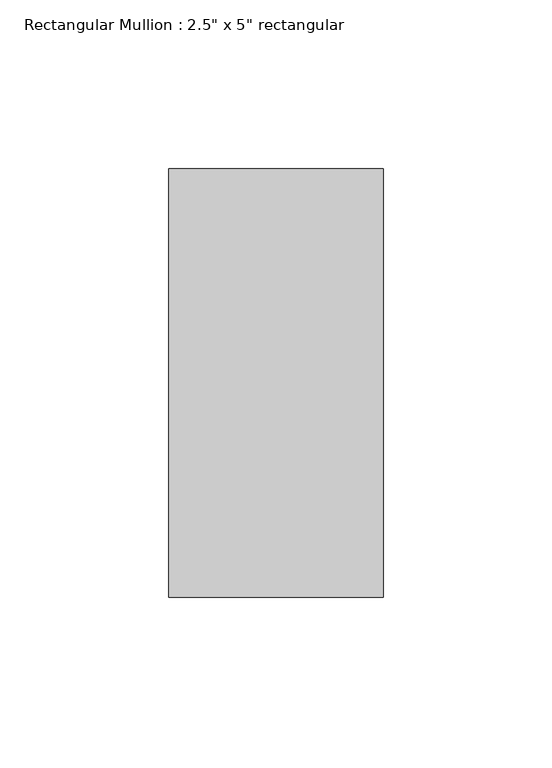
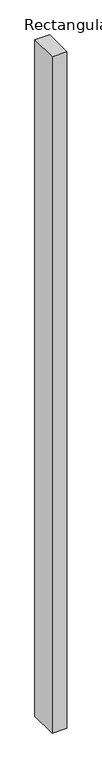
"""IFC4 building model written with IfcOpenShell, lengths in millimetres: member geometry."""

from ifc_helpers import new_model, si_unit, frame, origin, place, context, project, spatial, polyline, outline, extrude, source, transform, mapped, element, save


def member_301edf08(model_context):
    return source(origin(), model_context, "Body", "SweptSolid", [
        extrude(outline(polyline([(31.75, 63.5), (31.75, -63.5), (-31.75, -63.5), (-31.75, 63.5), (31.75, 63.5)])), frame((0.0, 0.0, -3060.7), z_axis=(0.0, 0.0, 1.0), x_axis=(1.0, 0.0, 0.0)), (0.0, 0.0, 1.0), 3060.7),
    ])


if __name__ == "__main__":
    model = new_model("IFC4")
    model_context = context("Model", 3, world=origin())
    ifc_project = project(units=[si_unit("LENGTHUNIT", "METRE", prefix="MILLI")], contexts=[model_context])
    site = spatial("IfcSite", under=ifc_project)
    building = spatial("IfcBuilding", under=site)
    placement = place(None, origin())
    member_shape = member_301edf08(model_context)
    element("IfcMember", 1, ObjectType="Rectangular Mullion : 2.5\" x 5\" rectangular", at=placement, inside=building, context=model_context, shape_type="MappedRepresentation", body=[
        mapped(member_shape, transform((0.0, 0.0, 0.0), x_axis=(1.0, 0.0, 0.0), y_axis=(0.0, 1.0, 0.0), z_axis=(0.0, 0.0, 1.0))),
    ])
    save(model, "model.ifc")
